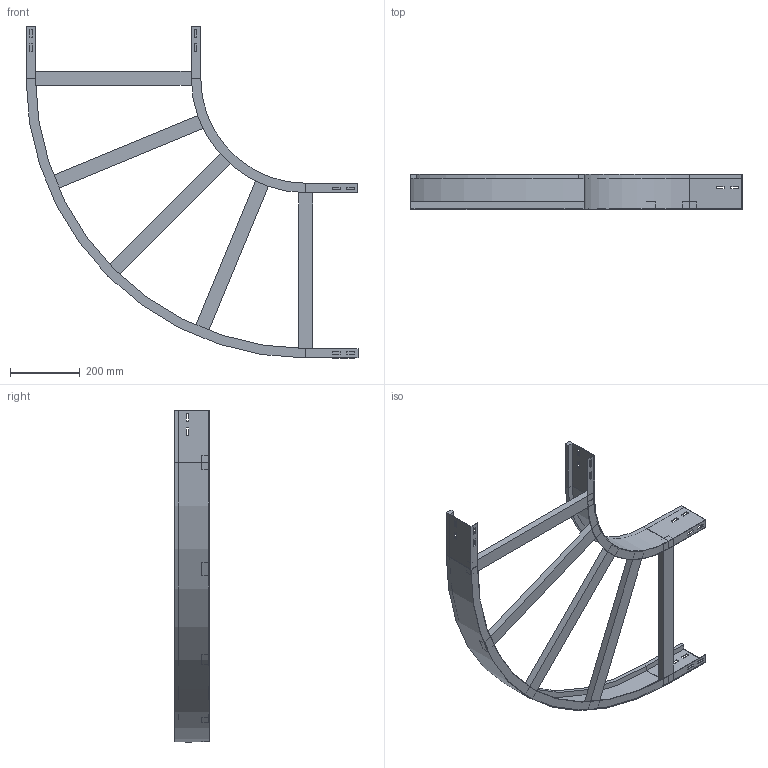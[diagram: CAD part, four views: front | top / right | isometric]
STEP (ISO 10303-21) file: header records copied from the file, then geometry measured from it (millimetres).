
FILE_DESCRIPTION (( 'STEP AP214' ), '1' );
FILE_NAME ('A2_10B3D500.step', '2025-02-21T15:22:59', ( '' ), ( '' ), 'SwSTEP 2.0', 'SolidWorks 2023', '' );
FILE_SCHEMA (( 'AUTOMOTIVE_DESIGN' ));
Length unit declared in the file: millimetre
Products named in the file (4): A2_LONGH.ESTERNO 90°_H100_R300+500; A2_LONGH.INTERNO 90°_H100_R300; A2_10B3D500; TRAVERSINO_500
Assembly tree (7 placements, depth 2):
  A2_10B3D500
    A2_LONGH.INTERNO 90°_H100_R300
    A2_LONGH.ESTERNO 90°_H100_R300+500
    TRAVERSINO_500  x5
Bounding box: 950 x 100 x 950 mm (x, y, z)
Volume: 3032793.2 mm3; surface area: 972648.5 mm2
Topology: 7 solids, 7 shells, 146 faces, 364 edges, 232 vertices
Faces by surface type: plane 138, cylinder 8
Entity records: 3837 total; most frequent: CARTESIAN_POINT 648, ORIENTED_EDGE 632, DIRECTION 596, EDGE_CURVE 316, LINE 300, VECTOR 300, VERTEX_POINT 200, EDGE_LOOP 154
